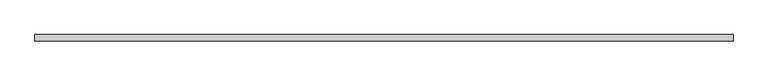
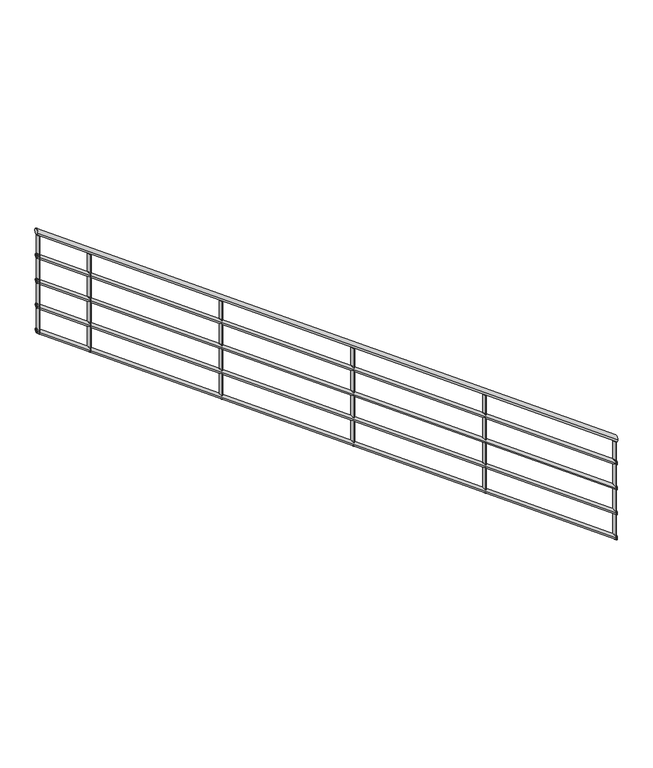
"""IFC4 building model written with IfcOpenShell, lengths in millimetres: railing geometry, 900mm 管."""

from ifc_helpers import new_model, si_unit, frame, origin, place, context, project, spatial, ellipse_curve, source, transform, mapped, element, save
from ifc_brep_helpers import plane_surface, cylinder_surface, advanced_brep


def railing_91144622(model_context):
    return source(origin(), model_context, "Body", "AdvancedBrep", [
        advanced_brep(
        [(7357.5192583, -4404.1637817, -2328.0570349), (7357.5192583, -4444.1637817, -2328.0570349), (2957.5192583, -4404.1637817, 871.9429651), (2957.5192583, -4444.1637817, 871.9429651)],
        [
            (0, 1, ellipse_curve(frame((7357.5192583, -4424.1637817, -2328.0570349), z_axis=(1.0, 0.0, 0.0), x_axis=(0.0, 0.0, -1.0)), 24.7299464, 20.0)),
            (1, 0, ellipse_curve(frame((7357.5192583, -4424.1637817, -2328.0570349), z_axis=(1.0, 0.0, 0.0), x_axis=(0.0, 0.0, -1.0)), 24.7299464, 20.0)),
            (2, 3, ellipse_curve(frame((2957.5192583, -4424.1637817, 871.9429651), z_axis=(-1.0, 0.0, 0.0), x_axis=(0.0, 0.0, -1.0)), 24.7299464, 20.0)),
            (3, 2, ellipse_curve(frame((2957.5192583, -4424.1637817, 871.9429651), z_axis=(-1.0, 0.0, 0.0), x_axis=(0.0, 0.0, -1.0)), 24.7299464, 20.0)),
            (0, 2),
            (3, 1),
        ],
        [
            plane_surface(frame((7357.5192583, -4424.1637817, -2303.3270885), z_axis=(1.0, 0.0, 0.0), x_axis=(0.0, -1.0, 0.0))),
            plane_surface(frame((2957.5192583, -4424.1637817, 896.6729115), z_axis=(-1.0, 0.0, 0.0), x_axis=(0.0, -1.0, 0.0))),
            cylinder_surface(frame((7345.7558244, -4424.1637817, -2319.5018102), z_axis=(0.8087360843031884, 0.0, -0.5881716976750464), x_axis=(0.0, -1.0, 0.0)), 20.0),
        ],
        [
            (0, [[1, 2]]),
            (1, [[3, 4]]),
            (2, [[-1, 5, -4, 6]]),
            (2, [[-2, -6, -3, -5]]),
        ],
    ),
        advanced_brep(
        [(7357.5192583, -4409.1637817, -2521.8745483), (7357.5192583, -4439.1637817, -2521.8745483), (2957.5192583, -4409.1637817, 678.1254517), (2957.5192583, -4439.1637817, 678.1254517)],
        [
            (0, 1, ellipse_curve(frame((7357.5192583, -4424.1637817, -2521.8745483), z_axis=(1.0, 0.0, 0.0), x_axis=(0.0, 0.0, -1.0)), 18.5474598, 15.0)),
            (1, 0, ellipse_curve(frame((7357.5192583, -4424.1637817, -2521.8745483), z_axis=(1.0, 0.0, 0.0), x_axis=(0.0, 0.0, -1.0)), 18.5474598, 15.0)),
            (2, 3, ellipse_curve(frame((2957.5192583, -4424.1637817, 678.1254517), z_axis=(-1.0, 0.0, 0.0), x_axis=(0.0, 0.0, -1.0)), 18.5474598, 15.0)),
            (3, 2, ellipse_curve(frame((2957.5192583, -4424.1637817, 678.1254517), z_axis=(-1.0, 0.0, 0.0), x_axis=(0.0, 0.0, -1.0)), 18.5474598, 15.0)),
            (0, 2),
            (3, 1),
        ],
        [
            plane_surface(frame((7357.5192583, -4424.1637817, -2503.3270885), z_axis=(1.0, 0.0, 0.0), x_axis=(0.0, -1.0, 0.0))),
            plane_surface(frame((2957.5192583, -4424.1637817, 696.6729115), z_axis=(-1.0, 0.0, 0.0), x_axis=(0.0, -1.0, 0.0))),
            cylinder_surface(frame((7348.6966828, -4424.1637817, -2515.4581297), z_axis=(0.8087360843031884, 0.0, -0.5881716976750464), x_axis=(0.0, -1.0, 0.0)), 15.0),
        ],
        [
            (0, [[1, 2]]),
            (1, [[3, 4]]),
            (2, [[-1, 5, -4, 6]]),
            (2, [[-2, -6, -3, -5]]),
        ],
    ),
        advanced_brep(
        [(7357.5192583, -4409.1637817, -2721.8745483), (7357.5192583, -4439.1637817, -2721.8745483), (2957.5192583, -4409.1637817, 478.1254517), (2957.5192583, -4439.1637817, 478.1254517)],
        [
            (0, 1, ellipse_curve(frame((7357.5192583, -4424.1637817, -2721.8745483), z_axis=(1.0, 0.0, 0.0), x_axis=(0.0, 0.0, -1.0)), 18.5474598, 15.0)),
            (1, 0, ellipse_curve(frame((7357.5192583, -4424.1637817, -2721.8745483), z_axis=(1.0, 0.0, 0.0), x_axis=(0.0, 0.0, -1.0)), 18.5474598, 15.0)),
            (2, 3, ellipse_curve(frame((2957.5192583, -4424.1637817, 478.1254517), z_axis=(-1.0, 0.0, 0.0), x_axis=(0.0, 0.0, -1.0)), 18.5474598, 15.0)),
            (3, 2, ellipse_curve(frame((2957.5192583, -4424.1637817, 478.1254517), z_axis=(-1.0, 0.0, 0.0), x_axis=(0.0, 0.0, -1.0)), 18.5474598, 15.0)),
            (0, 2),
            (3, 1),
        ],
        [
            plane_surface(frame((7357.5192583, -4424.1637817, -2703.3270885), z_axis=(1.0, 0.0, 0.0), x_axis=(0.0, -1.0, 0.0))),
            plane_surface(frame((2957.5192583, -4424.1637817, 496.6729115), z_axis=(-1.0, 0.0, 0.0), x_axis=(0.0, -1.0, 0.0))),
            cylinder_surface(frame((7348.6966828, -4424.1637817, -2715.4581297), z_axis=(0.8087360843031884, 0.0, -0.5881716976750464), x_axis=(0.0, -1.0, 0.0)), 15.0),
        ],
        [
            (0, [[1, 2]]),
            (1, [[3, 4]]),
            (2, [[-1, 5, -4, 6]]),
            (2, [[-2, -6, -3, -5]]),
        ],
    ),
        advanced_brep(
        [(7357.5192583, -4409.1637817, -2921.8745483), (7357.5192583, -4439.1637817, -2921.8745483), (2957.5192583, -4409.1637817, 278.1254517), (2957.5192583, -4439.1637817, 278.1254517)],
        [
            (0, 1, ellipse_curve(frame((7357.5192583, -4424.1637817, -2921.8745483), z_axis=(1.0, 0.0, 0.0), x_axis=(0.0, 0.0, -1.0)), 18.5474598, 15.0)),
            (1, 0, ellipse_curve(frame((7357.5192583, -4424.1637817, -2921.8745483), z_axis=(1.0, 0.0, 0.0), x_axis=(0.0, 0.0, -1.0)), 18.5474598, 15.0)),
            (2, 3, ellipse_curve(frame((2957.5192583, -4424.1637817, 278.1254517), z_axis=(-1.0, 0.0, 0.0), x_axis=(0.0, 0.0, -1.0)), 18.5474598, 15.0)),
            (3, 2, ellipse_curve(frame((2957.5192583, -4424.1637817, 278.1254517), z_axis=(-1.0, 0.0, 0.0), x_axis=(0.0, 0.0, -1.0)), 18.5474598, 15.0)),
            (0, 2),
            (3, 1),
        ],
        [
            plane_surface(frame((7357.5192583, -4424.1637817, -2903.3270885), z_axis=(1.0, 0.0, 0.0), x_axis=(0.0, -1.0, 0.0))),
            plane_surface(frame((2957.5192583, -4424.1637817, 296.6729115), z_axis=(-1.0, 0.0, 0.0), x_axis=(0.0, -1.0, 0.0))),
            cylinder_surface(frame((7348.6966828, -4424.1637817, -2915.4581297), z_axis=(0.8087360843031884, 0.0, -0.5881716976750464), x_axis=(0.0, -1.0, 0.0)), 15.0),
        ],
        [
            (0, [[1, 2]]),
            (1, [[3, 4]]),
            (2, [[-1, 5, -4, 6]]),
            (2, [[-2, -6, -3, -5]]),
        ],
    ),
        advanced_brep(
        [(7357.5192583, -4409.1637817, -3121.8745483), (7357.5192583, -4439.1637817, -3121.8745483), (2957.5192583, -4409.1637817, 78.1254517), (2957.5192583, -4439.1637817, 78.1254517)],
        [
            (0, 1, ellipse_curve(frame((7357.5192583, -4424.1637817, -3121.8745483), z_axis=(1.0, 0.0, 0.0), x_axis=(0.0, 0.0, -1.0)), 18.5474598, 15.0)),
            (1, 0, ellipse_curve(frame((7357.5192583, -4424.1637817, -3121.8745483), z_axis=(1.0, 0.0, 0.0), x_axis=(0.0, 0.0, -1.0)), 18.5474598, 15.0)),
            (2, 3, ellipse_curve(frame((2957.5192583, -4424.1637817, 78.1254517), z_axis=(-1.0, 0.0, 0.0), x_axis=(0.0, 0.0, -1.0)), 18.5474598, 15.0)),
            (3, 2, ellipse_curve(frame((2957.5192583, -4424.1637817, 78.1254517), z_axis=(-1.0, 0.0, 0.0), x_axis=(0.0, 0.0, -1.0)), 18.5474598, 15.0)),
            (0, 2),
            (3, 1),
        ],
        [
            plane_surface(frame((7357.5192583, -4424.1637817, -3103.3270885), z_axis=(1.0, 0.0, 0.0), x_axis=(0.0, -1.0, 0.0))),
            plane_surface(frame((2957.5192583, -4424.1637817, 96.6729115), z_axis=(-1.0, 0.0, 0.0), x_axis=(0.0, -1.0, 0.0))),
            cylinder_surface(frame((7348.6966828, -4424.1637817, -3115.4581297), z_axis=(0.8087360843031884, 0.0, -0.5881716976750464), x_axis=(0.0, -1.0, 0.0)), 15.0),
        ],
        [
            (0, [[1, 2]]),
            (1, [[3, 4]]),
            (2, [[-1, 5, -4, 6]]),
            (2, [[-2, -6, -3, -5]]),
        ],
    ),
        advanced_brep(
        [(3357.5192583, -4436.6637817, 556.3039279), (3357.5192583, -4411.6637817, 556.3039279), (3357.5192583, -4411.6637817, -228.4939352), (3357.5192583, -4436.6637817, -228.4939352)],
        [
            (0, 1, ellipse_curve(frame((3357.5192583, -4424.1637817, 556.3039279), z_axis=(-0.5881716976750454, 0.0, -0.8087360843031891), x_axis=(-0.8087360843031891, 0.0, 0.5881716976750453)), 15.4562165, 12.5)),
            (1, 2),
            (2, 3, ellipse_curve(frame((3357.5192583, -4424.1637817, -228.4939352), z_axis=(0.5881716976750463, 0.0, 0.8087360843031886), x_axis=(-0.8087360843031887, 0.0, 0.5881716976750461)), 15.4562165, 12.5)),
            (3, 0),
            (3, 2, ellipse_curve(frame((3357.5192583, -4424.1637817, -228.4939352), z_axis=(0.5881716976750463, 0.0, 0.8087360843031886), x_axis=(-0.8087360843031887, 0.0, 0.5881716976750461)), 15.4562165, 12.5)),
            (1, 0, ellipse_curve(frame((3357.5192583, -4424.1637817, 556.3039279), z_axis=(-0.5881716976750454, 0.0, -0.8087360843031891), x_axis=(-0.8087360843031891, 0.0, 0.5881716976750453)), 15.4562165, 12.5)),
        ],
        [
            cylinder_surface(frame((3357.5192583, -4424.1637817, -328.4939352), z_axis=(0.0, 0.0, 1.0), x_axis=(0.0, 1.0, 0.0)), 12.5),
            plane_surface(frame((3332.5192583, -4399.1637817, 574.485746), z_axis=(0.5881716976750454, 0.0, 0.8087360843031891), x_axis=(0.0, -1.0, 0.0))),
            plane_surface(frame((3382.5192583, -4399.1637817, -246.6757534), z_axis=(-0.5881716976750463, 0.0, -0.8087360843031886), x_axis=(0.0, -1.0, 0.0))),
        ],
        [
            (0, [[1, 2, 3, 4]]),
            (0, [[5, -2, 6, -4]]),
            (1, [[-6, -1]]),
            (2, [[-5, -3]]),
        ],
    ),
        advanced_brep(
        [(4357.5192583, -4436.6637817, -170.9687994), (4357.5192583, -4411.6637817, -170.9687994), (4357.5192583, -4411.6637817, -955.7666625), (4357.5192583, -4436.6637817, -955.7666625)],
        [
            (0, 1, ellipse_curve(frame((4357.5192583, -4424.1637817, -170.9687994), z_axis=(-0.5881716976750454, 0.0, -0.8087360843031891), x_axis=(-0.8087360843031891, 0.0, 0.5881716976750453)), 15.4562165, 12.5)),
            (1, 2),
            (2, 3, ellipse_curve(frame((4357.5192583, -4424.1637817, -955.7666625), z_axis=(0.5881716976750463, 0.0, 0.8087360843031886), x_axis=(-0.8087360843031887, 0.0, 0.5881716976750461)), 15.4562165, 12.5)),
            (3, 0),
            (3, 2, ellipse_curve(frame((4357.5192583, -4424.1637817, -955.7666625), z_axis=(0.5881716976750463, 0.0, 0.8087360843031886), x_axis=(-0.8087360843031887, 0.0, 0.5881716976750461)), 15.4562165, 12.5)),
            (1, 0, ellipse_curve(frame((4357.5192583, -4424.1637817, -170.9687994), z_axis=(-0.5881716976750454, 0.0, -0.8087360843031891), x_axis=(-0.8087360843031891, 0.0, 0.5881716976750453)), 15.4562165, 12.5)),
        ],
        [
            cylinder_surface(frame((4357.5192583, -4424.1637817, -1055.7666625), z_axis=(0.0, 0.0, 1.0), x_axis=(0.0, 1.0, 0.0)), 12.5),
            plane_surface(frame((4332.5192583, -4399.1637817, -152.7869812), z_axis=(0.5881716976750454, 0.0, 0.8087360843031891), x_axis=(0.0, -1.0, 0.0))),
            plane_surface(frame((4382.5192583, -4399.1637817, -973.9484806), z_axis=(-0.5881716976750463, 0.0, -0.8087360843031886), x_axis=(0.0, -1.0, 0.0))),
        ],
        [
            (0, [[1, 2, 3, 4]]),
            (0, [[5, -2, 6, -4]]),
            (1, [[-6, -1]]),
            (2, [[-5, -3]]),
        ],
    ),
        advanced_brep(
        [(5357.5192583, -4436.6637817, -898.2415267), (5357.5192583, -4411.6637817, -898.2415267), (5357.5192583, -4411.6637817, -1683.0393897), (5357.5192583, -4436.6637817, -1683.0393897)],
        [
            (0, 1, ellipse_curve(frame((5357.5192583, -4424.1637817, -898.2415267), z_axis=(-0.5881716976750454, 0.0, -0.8087360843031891), x_axis=(-0.8087360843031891, 0.0, 0.5881716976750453)), 15.4562165, 12.5)),
            (1, 2),
            (2, 3, ellipse_curve(frame((5357.5192583, -4424.1637817, -1683.0393897), z_axis=(0.5881716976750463, 0.0, 0.8087360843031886), x_axis=(-0.8087360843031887, 0.0, 0.5881716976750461)), 15.4562165, 12.5)),
            (3, 0),
            (3, 2, ellipse_curve(frame((5357.5192583, -4424.1637817, -1683.0393897), z_axis=(0.5881716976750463, 0.0, 0.8087360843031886), x_axis=(-0.8087360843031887, 0.0, 0.5881716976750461)), 15.4562165, 12.5)),
            (1, 0, ellipse_curve(frame((5357.5192583, -4424.1637817, -898.2415267), z_axis=(-0.5881716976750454, 0.0, -0.8087360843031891), x_axis=(-0.8087360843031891, 0.0, 0.5881716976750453)), 15.4562165, 12.5)),
        ],
        [
            cylinder_surface(frame((5357.5192583, -4424.1637817, -1783.0393897), z_axis=(0.0, 0.0, 1.0), x_axis=(0.0, 1.0, 0.0)), 12.5),
            plane_surface(frame((5332.5192583, -4399.1637817, -880.0597085), z_axis=(0.5881716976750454, 0.0, 0.8087360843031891), x_axis=(0.0, -1.0, 0.0))),
            plane_surface(frame((5382.5192583, -4399.1637817, -1701.2212079), z_axis=(-0.5881716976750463, 0.0, -0.8087360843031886), x_axis=(0.0, -1.0, 0.0))),
        ],
        [
            (0, [[1, 2, 3, 4]]),
            (0, [[5, -2, 6, -4]]),
            (1, [[-6, -1]]),
            (2, [[-5, -3]]),
        ],
    ),
        advanced_brep(
        [(6357.5192583, -4436.6637817, -1625.514254), (6357.5192583, -4411.6637817, -1625.514254), (6357.5192583, -4411.6637817, -2410.312117), (6357.5192583, -4436.6637817, -2410.312117)],
        [
            (0, 1, ellipse_curve(frame((6357.5192583, -4424.1637817, -1625.514254), z_axis=(-0.5881716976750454, 0.0, -0.8087360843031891), x_axis=(-0.8087360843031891, 0.0, 0.5881716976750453)), 15.4562165, 12.5)),
            (1, 2),
            (2, 3, ellipse_curve(frame((6357.5192583, -4424.1637817, -2410.312117), z_axis=(0.5881716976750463, 0.0, 0.8087360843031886), x_axis=(-0.8087360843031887, 0.0, 0.5881716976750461)), 15.4562165, 12.5)),
            (3, 0),
            (3, 2, ellipse_curve(frame((6357.5192583, -4424.1637817, -2410.312117), z_axis=(0.5881716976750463, 0.0, 0.8087360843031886), x_axis=(-0.8087360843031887, 0.0, 0.5881716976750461)), 15.4562165, 12.5)),
            (1, 0, ellipse_curve(frame((6357.5192583, -4424.1637817, -1625.514254), z_axis=(-0.5881716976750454, 0.0, -0.8087360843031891), x_axis=(-0.8087360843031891, 0.0, 0.5881716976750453)), 15.4562165, 12.5)),
        ],
        [
            cylinder_surface(frame((6357.5192583, -4424.1637817, -2510.312117), z_axis=(0.0, 0.0, 1.0), x_axis=(0.0, 1.0, 0.0)), 12.5),
            plane_surface(frame((6332.5192583, -4399.1637817, -1607.3324358), z_axis=(0.5881716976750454, 0.0, 0.8087360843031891), x_axis=(0.0, -1.0, 0.0))),
            plane_surface(frame((6382.5192583, -4399.1637817, -2428.4939352), z_axis=(-0.5881716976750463, 0.0, -0.8087360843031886), x_axis=(0.0, -1.0, 0.0))),
        ],
        [
            (0, [[1, 2, 3, 4]]),
            (0, [[5, -2, 6, -4]]),
            (1, [[-6, -1]]),
            (2, [[-5, -3]]),
        ],
    ),
        advanced_brep(
        [(2970.0192583, -4436.6637817, 838.1221097), (2970.0192583, -4411.6637817, 838.1221097), (2970.0192583, -4411.6637817, 53.3242466), (2970.0192583, -4436.6637817, 53.3242466)],
        [
            (0, 1, ellipse_curve(frame((2970.0192583, -4424.1637817, 838.1221097), z_axis=(-0.5881716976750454, 0.0, -0.8087360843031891), x_axis=(-0.8087360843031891, 0.0, 0.5881716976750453)), 15.4562165, 12.5)),
            (1, 2),
            (2, 3, ellipse_curve(frame((2970.0192583, -4424.1637817, 53.3242466), z_axis=(0.5881716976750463, 0.0, 0.8087360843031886), x_axis=(-0.8087360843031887, 0.0, 0.5881716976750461)), 15.4562165, 12.5)),
            (3, 0),
            (3, 2, ellipse_curve(frame((2970.0192583, -4424.1637817, 53.3242466), z_axis=(0.5881716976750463, 0.0, 0.8087360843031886), x_axis=(-0.8087360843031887, 0.0, 0.5881716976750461)), 15.4562165, 12.5)),
            (1, 0, ellipse_curve(frame((2970.0192583, -4424.1637817, 838.1221097), z_axis=(-0.5881716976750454, 0.0, -0.8087360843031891), x_axis=(-0.8087360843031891, 0.0, 0.5881716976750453)), 15.4562165, 12.5)),
        ],
        [
            cylinder_surface(frame((2970.0192583, -4424.1637817, -46.6757534), z_axis=(0.0, 0.0, 1.0), x_axis=(0.0, 1.0, 0.0)), 12.5),
            plane_surface(frame((2945.0192583, -4399.1637817, 856.3039279), z_axis=(0.5881716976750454, 0.0, 0.8087360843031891), x_axis=(0.0, -1.0, 0.0))),
            plane_surface(frame((2995.0192583, -4399.1637817, 35.1424284), z_axis=(-0.5881716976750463, 0.0, -0.8087360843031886), x_axis=(0.0, -1.0, 0.0))),
        ],
        [
            (0, [[1, 2, 3, 4]]),
            (0, [[5, -2, 6, -4]]),
            (1, [[-6, -1]]),
            (2, [[-5, -3]]),
        ],
    ),
        advanced_brep(
        [(7345.0192583, -4436.6637817, -2343.6960721), (7345.0192583, -4411.6637817, -2343.6960721), (7345.0192583, -4411.6637817, -3128.4939352), (7345.0192583, -4436.6637817, -3128.4939352)],
        [
            (0, 1, ellipse_curve(frame((7345.0192583, -4424.1637817, -2343.6960721), z_axis=(-0.5881716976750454, 0.0, -0.8087360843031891), x_axis=(-0.8087360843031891, 0.0, 0.5881716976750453)), 15.4562165, 12.5)),
            (1, 2),
            (2, 3, ellipse_curve(frame((7345.0192583, -4424.1637817, -3128.4939352), z_axis=(0.5881716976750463, 0.0, 0.8087360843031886), x_axis=(-0.8087360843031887, 0.0, 0.5881716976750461)), 15.4562165, 12.5)),
            (3, 0),
            (3, 2, ellipse_curve(frame((7345.0192583, -4424.1637817, -3128.4939352), z_axis=(0.5881716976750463, 0.0, 0.8087360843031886), x_axis=(-0.8087360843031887, 0.0, 0.5881716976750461)), 15.4562165, 12.5)),
            (1, 0, ellipse_curve(frame((7345.0192583, -4424.1637817, -2343.6960721), z_axis=(-0.5881716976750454, 0.0, -0.8087360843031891), x_axis=(-0.8087360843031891, 0.0, 0.5881716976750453)), 15.4562165, 12.5)),
        ],
        [
            cylinder_surface(frame((7345.0192583, -4424.1637817, -3228.4939352), z_axis=(0.0, 0.0, 1.0), x_axis=(0.0, 1.0, 0.0)), 12.5),
            plane_surface(frame((7320.0192583, -4399.1637817, -2325.514254), z_axis=(0.5881716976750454, 0.0, 0.8087360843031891), x_axis=(0.0, -1.0, 0.0))),
            plane_surface(frame((7370.0192583, -4399.1637817, -3146.6757534), z_axis=(-0.5881716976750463, 0.0, -0.8087360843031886), x_axis=(0.0, -1.0, 0.0))),
        ],
        [
            (0, [[1, 2, 3, 4]]),
            (0, [[5, -2, 6, -4]]),
            (1, [[-6, -1]]),
            (2, [[-5, -3]]),
        ],
    ),
    ])


if __name__ == "__main__":
    model = new_model("IFC4")
    model_context = context("Model", 3, world=origin())
    ifc_project = project(units=[si_unit("LENGTHUNIT", "METRE", prefix="MILLI")], contexts=[model_context])
    site = spatial("IfcSite", under=ifc_project)
    building = spatial("IfcBuilding", under=site)
    placement = place(None, origin())
    railing_shape = railing_91144622(model_context)
    element("IfcRailing", 1, ObjectType="900mm 管", at=placement, inside=building, context=model_context, shape_type="MappedRepresentation", body=[
        mapped(railing_shape, transform((0.0, 0.0, 0.0), x_axis=(1.0, 0.0, 0.0), y_axis=(0.0, 1.0, 0.0), z_axis=(0.0, 0.0, 1.0))),
    ])
    save(model, "model.ifc")
